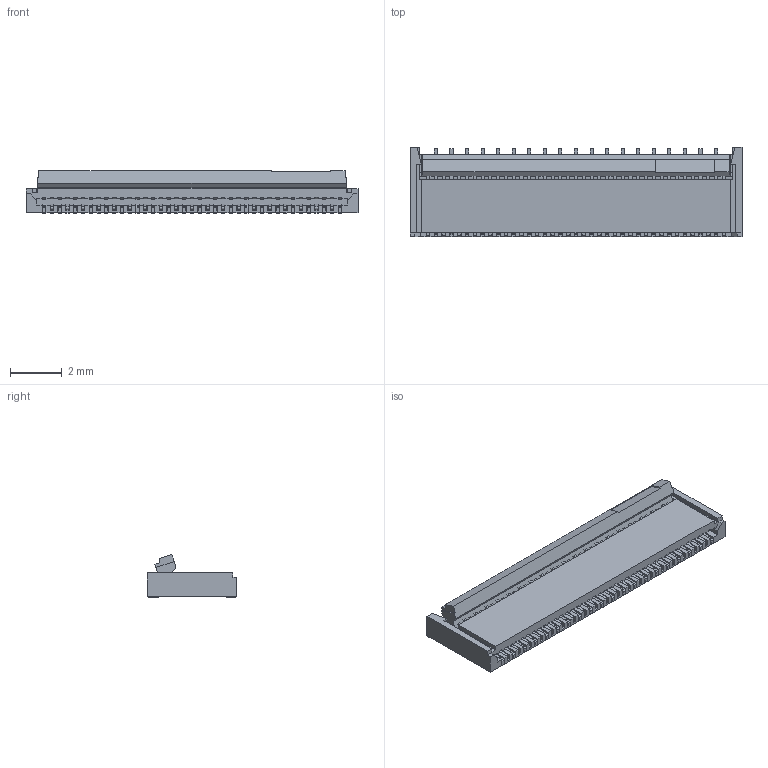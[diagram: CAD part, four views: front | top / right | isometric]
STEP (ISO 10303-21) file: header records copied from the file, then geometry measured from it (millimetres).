
FILE_DESCRIPTION(/* description */ (''),/* implementation_level */ '2;1');
FILE_NAME(/* name */ '5047403900wbm000_01_214.stp',/* time_stamp */ '2025-03-20T12:48:13+05:30',/* author */ (''),/* organization */ (''),/* preprocessor_version */ 'ST-DEVELOPER v19.4',/* originating_system */ 'SIEMENS PLM Software NX2212.9160',/* authorisation */ '');
FILE_SCHEMA (('AUTOMOTIVE_DESIGN { 1 0 10303 214 3 1 1 1 }'));
Products named in the file (1): 5047403900wbm000_01
Bounding box: 12.8 x 3.45 x 1.65 mm (x, y, z)
Volume: 29.7 mm3; surface area: 304.3 mm2
Topology: 1 solids, 1 shells, 2159 faces, 6854 edges, 4776 vertices
Faces by surface type: plane 2021, cylinder 138
Entity records: 75188 total; most frequent: CARTESIAN_POINT 13478, ORIENTED_EDGE 13396, DIRECTION 11526, EDGE_CURVE 6698, LINE 6502, VECTOR 6502, VERTEX_POINT 4464, AXIS2_PLACEMENT_3D 2512
